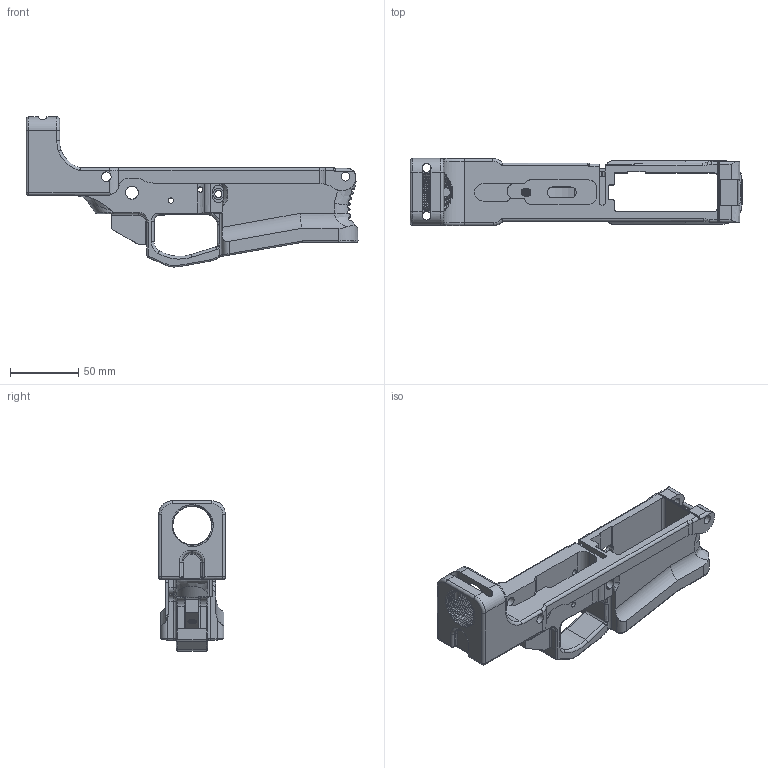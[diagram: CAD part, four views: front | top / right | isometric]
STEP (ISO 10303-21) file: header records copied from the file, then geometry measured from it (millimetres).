
FILE_DESCRIPTION(/* description */ (''),/* implementation_level */ '2;1');
FILE_NAME(/* name */ 'AR-10 - Final.step',/* time_stamp */ '2022-04-06T17:25:50-04:00',/* author */ (''),/* organization */ (''),/* preprocessor_version */ 'ST-DEVELOPER v18.1',/* originating_system */ 'Autodesk Translation Framework v10.14.0.1471',/* authorisation */ '');
FILE_SCHEMA (('AUTOMOTIVE_DESIGN { 1 0 10303 214 3 1 1 }'));
Length unit declared in the file: millimetre
Products named in the file (2): AR-10 - Final; Reciever
Assembly tree (1 placements, depth 2):
  AR-10 - Final
    Reciever
Bounding box: 242.8 x 49 x 109.84 mm (x, y, z)
Volume: 226335.8 mm3; surface area: 78212.6 mm2
Topology: 1 solids, 1 shells, 725 faces, 2009 edges, 1260 vertices
Faces by surface type: cylinder 288, plane 210, bspline 179, torus 43, sphere 3, cone 2
Full cylindrical faces by diameter (mm): 3.84 x1, 3.888 x2, 3.906 x2, 4.071 x1, 5.218 x1, 5.468 x9, 6.474 x1, 6.5 x2, 6.556 x1, 7.092 x2, 7.959 x1, 9.462 x2, 28.47 x5, 28.57 x5, 30.643 x9
Entity records: 36123 total; most frequent: CARTESIAN_POINT 18962, ORIENTED_EDGE 3980, DIRECTION 3011, EDGE_CURVE 1990, VERTEX_POINT 1260, AXIS2_PLACEMENT_3D 1096, LINE 819, VECTOR 819
